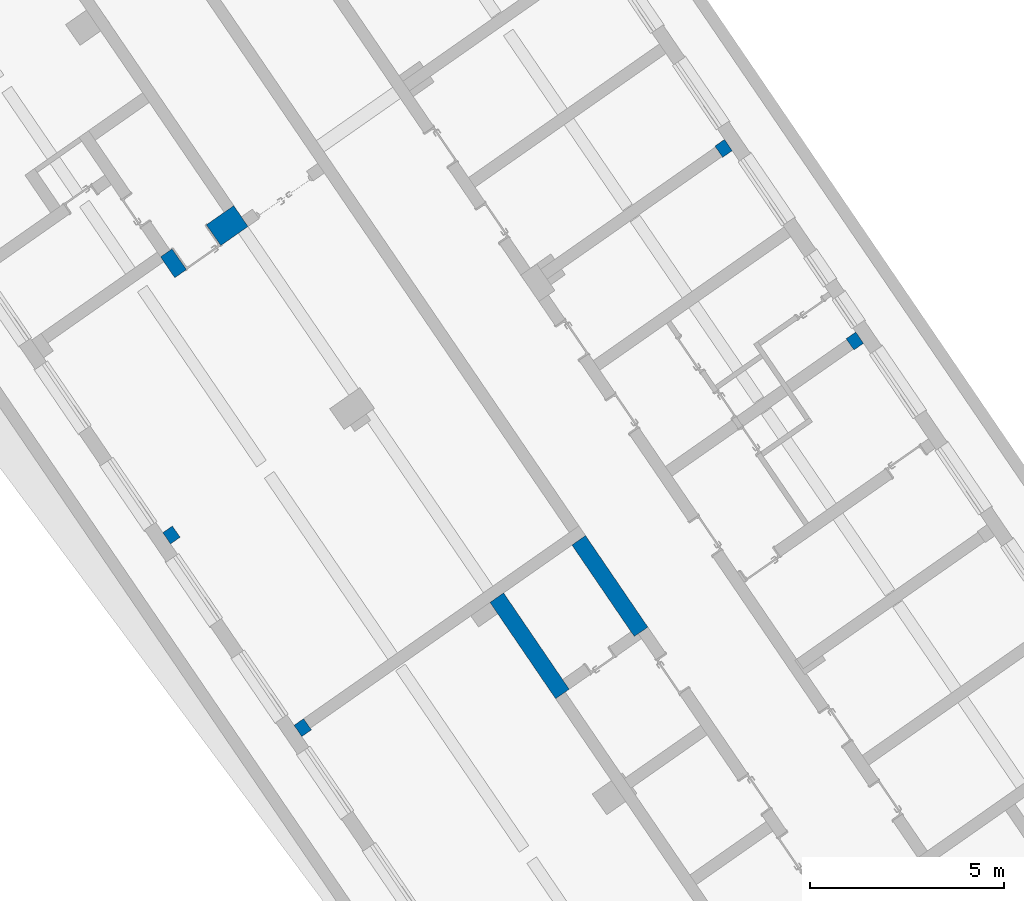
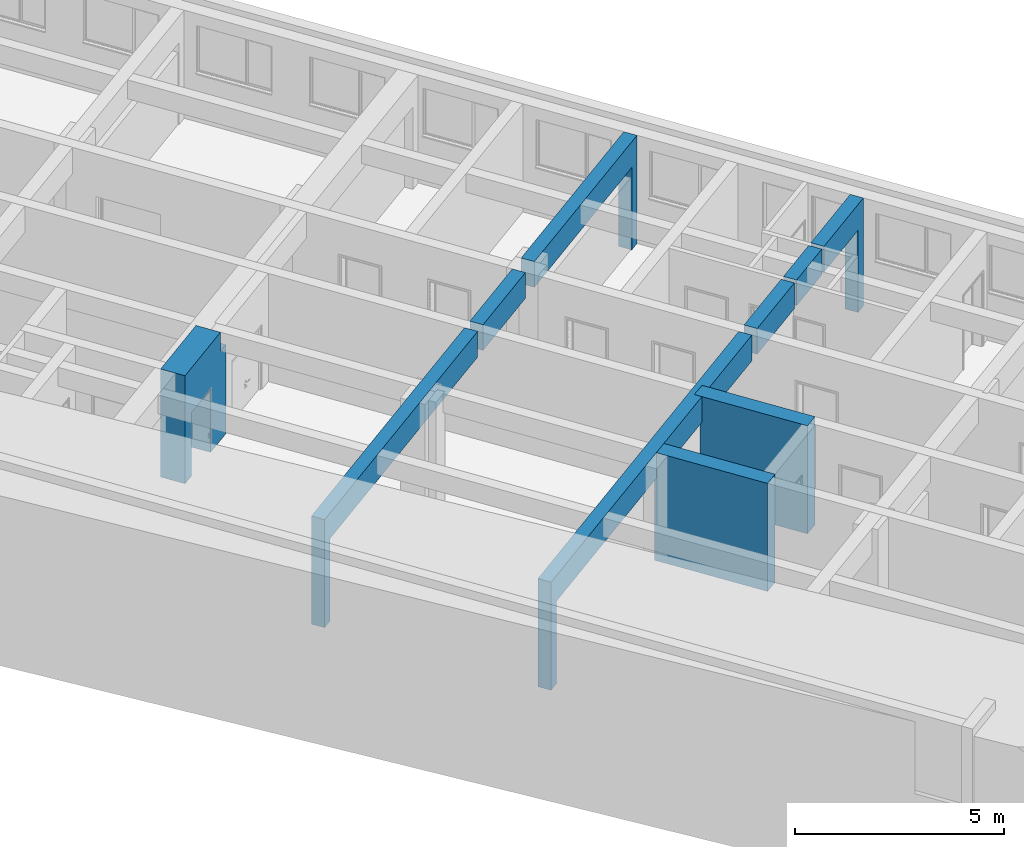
# One storey, part 102 of 112: 5 walls, 1 opening.
"""IFC2X3 building model written with IfcOpenShell, lengths in millimetres."""

from ifc_helpers import new_model, entity, si_unit, converted_unit, derived_unit, direction, frame, frame_2d, origin, place, context, subcontext, project, spatial, rectangle, extrude, faceted_brep, material, layer, layer_set, type_object, element, save


model = new_model("IFC2X3")

# Units and contexts
model_context = context("Model", 3, precision=0.01, world=origin(), true_north=direction((6.123031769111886e-17, 1.0)))
body_context = subcontext(model_context, "Body", "Model", "MODEL_VIEW")
ifc_project = project(units=[si_unit("LENGTHUNIT", "METRE", prefix="MILLI"), si_unit("AREAUNIT", "SQUARE_METRE"), si_unit("VOLUMEUNIT", "CUBIC_METRE"), converted_unit("PLANEANGLEUNIT", "DEGREE", entity("IfcRatioMeasure", 0.017453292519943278), si_unit("PLANEANGLEUNIT", "RADIAN"), dimensions=[0, 0, 0, 0, 0, 0, 0]), si_unit("MASSUNIT", "GRAM", prefix="KILO"), derived_unit("MASSDENSITYUNIT", [(si_unit("MASSUNIT", "GRAM", prefix="KILO"), 1), (si_unit("LENGTHUNIT", "METRE"), -3)]), derived_unit("MOMENTOFINERTIAUNIT", [(si_unit("LENGTHUNIT", "METRE"), 4)]), si_unit("TIMEUNIT", "SECOND"), si_unit("FREQUENCYUNIT", "HERTZ"), si_unit("THERMODYNAMICTEMPERATUREUNIT", "DEGREE_CELSIUS"), derived_unit("THERMALTRANSMITTANCEUNIT", [(si_unit("MASSUNIT", "GRAM", prefix="KILO"), 1), (si_unit("THERMODYNAMICTEMPERATUREUNIT", "KELVIN"), -1), (si_unit("TIMEUNIT", "SECOND"), -3)]), derived_unit("THERMALCONDUCTANCEUNIT", [(si_unit("MASSUNIT", "GRAM", prefix="KILO"), 1), (si_unit("LENGTHUNIT", "METRE"), 1), (si_unit("THERMODYNAMICTEMPERATUREUNIT", "KELVIN"), -1), (si_unit("TIMEUNIT", "SECOND"), -3)]), derived_unit("VOLUMETRICFLOWRATEUNIT", [(si_unit("LENGTHUNIT", "METRE"), 3), (si_unit("TIMEUNIT", "SECOND"), -1)]), derived_unit("MASSFLOWRATEUNIT", [(si_unit("MASSUNIT", "GRAM", prefix="KILO"), 1), (si_unit("TIMEUNIT", "SECOND"), -1)]), derived_unit("ROTATIONALFREQUENCYUNIT", [(si_unit("TIMEUNIT", "SECOND"), -1)]), si_unit("ELECTRICCURRENTUNIT", "AMPERE"), si_unit("ELECTRICVOLTAGEUNIT", "VOLT"), si_unit("POWERUNIT", "WATT"), converted_unit("FORCEUNIT", "KIP", entity("IfcRatioMeasure", 2.088543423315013e-05), si_unit("FORCEUNIT", "NEWTON"), dimensions=[1, 1, -2, 0, 0, 0, 0]), si_unit("ILLUMINANCEUNIT", "LUX"), si_unit("LUMINOUSFLUXUNIT", "LUMEN"), si_unit("LUMINOUSINTENSITYUNIT", "CANDELA"), derived_unit("USERDEFINED", [(si_unit("MASSUNIT", "GRAM", prefix="KILO"), -1), (si_unit("LENGTHUNIT", "METRE"), -2), (si_unit("TIMEUNIT", "SECOND"), 3), (si_unit("LUMINOUSFLUXUNIT", "LUMEN"), 1)]), derived_unit("USERDEFINED", [(si_unit("MASSUNIT", "GRAM", prefix="KILO"), 1), (si_unit("LENGTHUNIT", "METRE"), 3), (si_unit("TIMEUNIT", "SECOND"), -3), (si_unit("ELECTRICCURRENTUNIT", "AMPERE"), -2)]), derived_unit("USERDEFINED", [(si_unit("LENGTHUNIT", "METRE"), 2), (si_unit("TIMEUNIT", "SECOND"), -2)]), derived_unit("SOUNDPOWERUNIT", [(si_unit("MASSUNIT", "GRAM", prefix="KILO"), 1), (si_unit("LENGTHUNIT", "METRE"), 2), (si_unit("TIMEUNIT", "SECOND"), -3)]), derived_unit("SOUNDPRESSUREUNIT", [(si_unit("MASSUNIT", "GRAM", prefix="KILO"), 1), (si_unit("LENGTHUNIT", "METRE"), -1), (si_unit("TIMEUNIT", "SECOND"), -2)]), derived_unit("LINEARVELOCITYUNIT", [(si_unit("LENGTHUNIT", "METRE"), 1), (si_unit("TIMEUNIT", "SECOND"), -1)]), si_unit("PRESSUREUNIT", "PASCAL"), derived_unit("USERDEFINED", [(si_unit("LENGTHUNIT", "METRE"), -2), (si_unit("MASSUNIT", "GRAM", prefix="KILO"), 1), (si_unit("TIMEUNIT", "SECOND"), -2)]), derived_unit("LINEARFORCEUNIT", [(si_unit("MASSUNIT", "GRAM", prefix="KILO"), 1), (si_unit("LENGTHUNIT", "METRE"), 1), (si_unit("TIMEUNIT", "SECOND"), -2), (si_unit("LENGTHUNIT", "METRE"), -1)]), derived_unit("PLANARFORCEUNIT", [(si_unit("MASSUNIT", "GRAM", prefix="KILO"), 1), (si_unit("LENGTHUNIT", "METRE"), 1), (si_unit("TIMEUNIT", "SECOND"), -2), (si_unit("LENGTHUNIT", "METRE"), -2)]), derived_unit("SPECIFICHEATCAPACITYUNIT", [(si_unit("LENGTHUNIT", "METRE"), 2), (si_unit("TIMEUNIT", "SECOND"), -2), (si_unit("THERMODYNAMICTEMPERATUREUNIT", "KELVIN"), -1)]), derived_unit("VAPORPERMEABILITYUNIT", [(si_unit("TIMEUNIT", "SECOND"), 1), (si_unit("LENGTHUNIT", "METRE"), -1)]), derived_unit("DYNAMICVISCOSITYUNIT", [(si_unit("MASSUNIT", "GRAM", prefix="KILO"), 1), (si_unit("LENGTHUNIT", "METRE"), -1), (si_unit("TIMEUNIT", "SECOND"), -1)]), derived_unit("THERMALEXPANSIONCOEFFICIENTUNIT", [(si_unit("THERMODYNAMICTEMPERATUREUNIT", "KELVIN"), -1)])], contexts=[model_context])

# Site, building, storey
site_placement = place(None, frame((0.0, 0.0, 0.0), z_axis=(0.0, 0.0, 1.0), x_axis=(0.8191520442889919, 0.5735764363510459, 0.0)))
site = spatial("IfcSite", under=ifc_project, at=site_placement, Name="Default", CompositionType="ELEMENT")
building_placement = place(site_placement, origin())
building = spatial("IfcBuilding", under=site, at=building_placement, CompositionType="ELEMENT")
storey_placement = place(building_placement, frame((0.0, 0.0, -3600.0)))
storey = spatial("IfcBuildingStorey", under=building, at=storey_placement, Name="0.UG -3.60", CompositionType="ELEMENT", Elevation=-3600.0000000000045)

# Walls
ifc_material = material(Name="Analytical Wall Surface_CJC")
ifc_layer_1 = layer(ifc_material, 350.0)
ifc_layer_set_1 = layer_set([ifc_layer_1], Name="Basic Wall:Wand_Innen_35")
wall_type_1 = type_object("IfcWallType", Name="Basic Wall:Wand_Innen_35", PredefinedType="STANDARD", material=ifc_layer_set_1)
wall_1_placement = place(storey_placement, frame((-205556.72481544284, 79396.35891435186, 300.0), z_axis=(0.0, 0.0, 1.0), x_axis=(-1.0, 0.0, 0.0)))
element("IfcWall", 1, at=wall_1_placement, inside=storey, type_object=wall_type_1, Name="Basic Wall:Wand_Innen_35", ObjectType="Basic Wall:Wand_Innen_35", context=body_context, shape_type="Brep", body=[
    faceted_brep([(0.0, -175.0, 0.0), (302.2107906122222, -175.0, 0.0), (302.2107906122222, -175.0, 2400.0), (5352.704468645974, -175.0, 2400.0), (5800.456240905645, -175.0, 2400.0), (5800.456240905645, -175.0, 3150.0), (5352.704468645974, -175.0, 3150.0), (3200.2455601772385, -175.0, 3150.0), (2900.221250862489, -175.0, 3150.0), (0.0, -175.0, 3150.0), (4.455731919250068, 175.0, 0.0), (302.2107906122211, 175.0, 0.0), (302.21079061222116, 150.0, 0.0), (302.2107906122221, -150.0, 0.0), (302.2107906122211, 175.0, 2400.0), (5352.704468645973, 175.0, 2400.0), (5804.911957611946, 175.0, 2400.0), (4.455731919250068, 175.0, 3150.0), (5804.911957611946, 175.0, 3150.0), (5352.704468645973, 175.0, 3150.0), (3204.7012768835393, 175.0, 3150.0), (2904.6769675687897, 175.0, 3150.0)], [[[0, 1, 2, 3, 4, 5, 6, 7, 8, 9]], [[1, 0, 10, 11, 12, 13]], [[2, 1, 13, 12, 11, 14]], [[2, 14, 15, 16, 4, 3]], [[0, 9, 17, 10]], [[5, 4, 16, 18]], [[17, 9, 8, 7, 6, 5, 18, 19, 20, 21]], [[11, 10, 17, 21, 20, 19, 18, 16, 15, 14]]]),
    faceted_brep([(17353.632162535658, 175.0, 0.0), (17353.632162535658, 175.0, 2400.0), (12302.668030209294, 175.0, 2400.0), (11352.668030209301, 175.0, 2400.0), (9005.171121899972, 175.0, 2400.0), (9005.171121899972, 175.0, 3150.0), (11352.668030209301, 175.0, 3150.0), (11405.365731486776, 175.0, 3150.0), (11705.39004080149, 175.0, 3150.0), (12302.668030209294, 175.0, 3150.0), (14405.608824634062, 175.0, 3150.0), (14705.633133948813, 175.0, 3150.0), (17655.822867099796, 175.0, 3150.0), (17655.822867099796, 175.0, 0.0), (17651.367150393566, -175.0, 3150.0), (9000.71540519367, -175.0, 3150.0), (11352.668030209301, -175.0, 3150.0), (11400.910014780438, -175.0, 3150.0), (11700.93432409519, -175.0, 3150.0), (12302.668030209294, -175.0, 3150.0), (14401.153107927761, -175.0, 3150.0), (14701.17741724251, -175.0, 3150.0), (17353.632162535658, -175.0, 0.0), (17353.632162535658, -175.0, 2400.0), (17651.367150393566, -175.0, 0.0), (9000.71540519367, -175.0, 2400.0), (12302.668030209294, -175.0, 2400.0), (11352.668030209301, -175.0, 2400.0)], [[[0, 1, 2, 3, 4, 5, 6, 7, 8, 9, 10, 11, 12, 13]], [[14, 12, 11, 10, 9, 8, 7, 6, 5, 15, 16, 17, 18, 19, 20, 21]], [[22, 23, 1, 0]], [[24, 22, 0, 13]], [[14, 24, 13, 12]], [[25, 15, 5, 4]], [[1, 23, 26, 27, 25, 4, 3, 2]], [[23, 22, 24, 14, 21, 20, 19, 18, 17, 16, 15, 25, 27, 26]]]),
    faceted_brep([(8700.691095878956, -175.0, 3150.0), (8700.691095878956, -175.0, 2400.0), (8705.146812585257, 175.0, 2400.0), (8705.146812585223, 175.0, 3150.0), (6300.496756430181, -175.0, 2400.0), (6300.496756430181, -175.0, 3150.0), (6304.952473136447, 175.0, 3150.0), (6304.952473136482, 175.0, 2400.0), (6302.704468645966, -1.5824947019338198, 2400.0), (6302.704468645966, -175.0, 2400.0), (6302.704468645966, -175.0, 3150.0)], [[[0, 1, 2, 3]], [[4, 5, 6, 7, 8]], [[2, 1, 9, 4, 8, 7]], [[0, 3, 6, 5, 10]], [[3, 2, 7, 6]], [[1, 0, 10, 5, 4, 9]]]),
])
wall_2_placement = place(storey_placement, frame((-205633.10879120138, 73396.35891435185, 300.0), z_axis=(0.0, 0.0, 1.0), x_axis=(-1.0, 0.0, 0.0)))
element("IfcWall", 2, at=wall_2_placement, inside=storey, type_object=wall_type_1, Name="Basic Wall:Wand_Innen_35", ObjectType="Basic Wall:Wand_Innen_35", context=body_context, shape_type="Brep", body=[
    faceted_brep([(0.0, -175.0, 0.0), (302.2105298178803, -175.0, 0.0), (302.2105298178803, -175.0, 2400.0), (2225.166294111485, -175.0, 2400.0), (2225.1662941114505, -175.0, 3150.0), (0.0, -175.0, 3150.0), (4.4557319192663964, 175.0, 0.0), (302.2105298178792, 175.0, 0.0), (302.2105298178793, 150.0, 0.0), (302.21052981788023, -150.0, 0.0), (302.2105298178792, 175.0, 2400.0), (302.2105298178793, 150.0, 2400.0), (302.21052981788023, -150.0, 2400.0), (2229.622010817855, 175.0, 2400.0), (4.4557319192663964, 175.0, 3150.0), (2229.622010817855, 175.0, 3150.0)], [[[0, 1, 2, 3, 4, 5]], [[1, 0, 6, 7, 8, 9]], [[2, 1, 9, 8, 7, 10, 11, 12]], [[2, 12, 11, 10, 13, 3]], [[0, 5, 14, 6]], [[4, 3, 13, 15]], [[14, 5, 4, 15]], [[7, 6, 14, 15, 13, 10]]]),
    faceted_brep([(17353.631901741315, 175.0, 0.0), (17353.631901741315, 175.0, 2400.0), (12309.25758438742, 175.0, 2400.0), (11705.389780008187, 175.0, 2400.0), (11280.355341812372, 175.0, 2400.0), (6304.952212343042, 175.0, 2400.0), (6304.952212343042, 175.0, 3150.0), (11280.355341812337, 175.0, 3150.0), (11705.389780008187, 175.0, 3150.0), (12309.25758438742, 175.0, 3150.0), (14405.608563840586, 175.0, 3150.0), (14705.6328731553, 175.0, 3150.0), (17655.82260630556, 175.0, 3150.0), (17655.82260630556, 175.0, 0.0), (17651.36688959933, -175.0, 3150.0), (6300.49649563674, -175.0, 3150.0), (11400.909753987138, -175.0, 3150.0), (11700.934063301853, -175.0, 3150.0), (14401.152847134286, -175.0, 3150.0), (14701.177156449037, -175.0, 3150.0), (17353.631901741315, -175.0, 0.0), (17353.631901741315, -175.0, 2400.0), (17353.631901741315, 125.0, 2400.0), (17353.631901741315, 125.0, 0.0), (17651.36688959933, -175.0, 0.0), (6300.496495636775, -175.0, 2400.0), (8700.691021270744, -175.0, 2400.0)], [[[0, 1, 2, 3, 4, 5, 6, 7, 8, 9, 10, 11, 12, 13]], [[14, 12, 11, 10, 9, 8, 7, 6, 15, 16, 17, 18, 19]], [[20, 21, 22, 1, 0, 23]], [[24, 20, 23, 0, 13]], [[14, 24, 13, 12]], [[25, 15, 6, 5]], [[1, 22, 21, 26, 25, 5, 4, 3, 2]], [[21, 20, 24, 14, 19, 18, 17, 16, 15, 25, 26]]]),
    faceted_brep([(6000.472186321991, -175.0, 3150.0), (6000.472186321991, -175.0, 2400.0), (6004.927903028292, 175.0, 2400.0), (6004.927903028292, 175.0, 3150.0), (3900.302021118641, -175.0, 2400.0), (3900.302021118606, -175.0, 3150.0), (3904.7577378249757, 175.0, 3150.0), (3904.757737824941, 175.0, 2400.0)], [[[0, 1, 2, 3]], [[4, 5, 6, 7]], [[2, 1, 4, 7]], [[0, 3, 6, 5]], [[3, 2, 7, 6]], [[1, 0, 5, 4]]]),
    faceted_brep([(3770.2914870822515, -175.0, 3150.0), (3770.291487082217, -175.0, 2400.0), (3774.747203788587, 175.0, 2400.0), (3774.747203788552, 175.0, 3150.0), (2350.1764229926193, -175.0, 2400.0), (2350.176422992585, -175.0, 3150.0), (2354.6321396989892, 175.0, 3150.0), (2354.6321396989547, 175.0, 2400.0), (3204.7010160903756, 175.0, 3150.0), (2904.676706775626, 175.0, 3150.0), (2900.220990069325, -175.0, 3150.0), (3200.2452993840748, -175.0, 3150.0)], [[[0, 1, 2, 3]], [[4, 5, 6, 7]], [[2, 1, 4, 7]], [[0, 3, 8, 9, 6, 5, 10, 11]], [[3, 2, 7, 6, 9, 8]], [[1, 0, 11, 10, 5, 4]]]),
])

# Wall, opening
ifc_layer_2 = layer(ifc_material, 650.0)
ifc_layer_set_2 = layer_set([ifc_layer_2], Name="Basic Wall:Wand_Innen_65")
wall_type_2 = type_object("IfcWallType", Name="Basic Wall:Wand_Innen_65", PredefinedType="STANDARD", material=ifc_layer_set_2)
wall_3_placement = place(storey_placement, frame((-219191.62198199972, 85096.35891435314, 300.0)))
wall_3 = element("IfcWall", 3, at=wall_3_placement, inside=storey, type_object=wall_type_2, Name="Basic Wall:Wand_Innen_65", ObjectType="Basic Wall:Wand_Innen_65", context=body_context, shape_type="Brep", body=[
    faceted_brep([(2000.162062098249, -325.0, 3150.0), (0.0, -325.0, 3150.0), (0.0, -325.0, 0.0), (366.4482562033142, -325.0, 0.0), (366.4482562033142, -325.0, 1850.0), (1446.448256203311, -325.0, 1850.0), (1446.448256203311, -325.0, 0.0), (2300.1863714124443, -325.0, 0.0), (2300.1863714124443, -325.0, 2600.0), (2000.162062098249, -325.0, 2600.0), (8.274902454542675, 325.0, 3150.0), (308.29921176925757, 325.0, 3150.0), (2008.4369645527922, 325.0, 3150.0), (2008.4369645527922, 325.0, 2600.0), (2154.311667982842, 325.0, 2600.0), (2308.461273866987, 325.0, 2600.0), (2308.461273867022, 325.0, 0.0), (2154.311667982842, 325.0, 0.0), (2008.4369645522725, 325.0, 0.0), (1446.448256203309, 325.0, 0.0), (1446.448256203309, 325.0, 1850.0), (366.44825620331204, 325.0, 1850.0), (366.44825620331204, 325.0, 0.0), (308.29921176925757, 325.0, 0.0), (8.274902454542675, 325.0, 0.0), (6.365309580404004, 175.0, 0.0), (2003.3447168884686, -75.0, 3150.0), (2303.369026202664, -75.0, 2600.0), (2003.3447168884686, -75.0, 2600.0)], [[[0, 1, 2, 3, 4, 5, 6, 7, 8, 9]], [[10, 11, 12, 13, 14, 15, 16, 17, 18, 19, 20, 21, 22, 23, 24]], [[2, 25, 24, 23, 22, 3]], [[1, 0, 26, 12, 11, 10]], [[9, 8, 27, 15, 14, 13, 28]], [[7, 16, 15, 27, 8]], [[12, 26, 0, 9, 28, 13]], [[1, 10, 24, 25, 2]], [[21, 4, 3, 22]], [[4, 21, 20, 5]], [[5, 20, 19, 6]], [[16, 7, 6, 19, 18, 17]]]),
])
opening_placement = place(wall_3_placement, frame((1446.4482562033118, 325.0, -300.0)))
element("IfcOpeningElement", 4, at=opening_placement, cuts=wall_3, Name="Doors_IntSgl:100x210:1", ObjectType="Opening", context=body_context, shape_type="SweptSolid", body=[
    extrude(rectangle(XDim=2150.000000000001, YDim=1079.9999999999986, at=frame_2d((1075.0000000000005, 539.9999999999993), x_axis=(1.0, 0.0))), frame((0.0, 0.0, 0.0), z_axis=(0.0, -1.0, 0.0), x_axis=(0.0, 0.0, 1.0)), (0.0, 0.0, 1.0), 650.0),
])

# Walls
ifc_layer_3 = layer(ifc_material, 425.0)
ifc_layer_set_3 = layer_set([ifc_layer_3], Name="Basic Wall:Wand_Innen_42.5")
wall_type_3 = type_object("IfcWallType", Name="Basic Wall:Wand_Innen_42.5", PredefinedType="STANDARD", material=ifc_layer_set_3)
wall_4_placement = place(storey_placement, frame((-217163.57111543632, 70268.6538769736, 300.0), z_axis=(0.0, 0.0, 1.0), x_axis=(0.012729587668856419, 0.999918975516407, 0.0)))
element("IfcWall", 5, at=wall_4_placement, inside=storey, type_object=wall_type_3, Name="Basic Wall:Wand_Innen_42.5", ObjectType="Basic Wall:Wand_Innen_42.5", context=body_context, shape_type="Brep", body=[
    faceted_brep([(5.410513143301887, -212.49999999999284, 0.0), (305.43482245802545, -212.4999999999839, 0.0), (3005.653606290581, -212.49999999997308, 0.0), (3005.653606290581, -212.49999999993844, 2400.0), (2955.649554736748, -212.4999999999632, 2400.0), (2955.649554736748, -212.4999999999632, 3150.0), (305.43482245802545, -212.4999999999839, 3150.0), (5.410513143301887, -212.49999999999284, 3150.0), (0.0, 212.49999999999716, 0.0), (0.0, 212.49999999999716, 3150.0), (2650.2147322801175, 212.50000000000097, 3150.0), (2950.2390415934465, 212.5000000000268, 3150.0), (2950.2390415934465, 212.5000000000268, 2400.0), (3000.2430931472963, 212.50000000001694, 2400.0), (3000.2430931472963, 212.50000000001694, 0.0), (2650.2147322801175, 212.50000000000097, 0.0)], [[[0, 1, 2, 3, 4, 5, 6, 7]], [[8, 9, 10, 11, 12, 13, 14, 15]], [[2, 1, 0, 8, 15, 14]], [[7, 6, 5, 11, 10, 9]], [[0, 7, 9, 8]], [[12, 4, 3, 13]], [[3, 2, 14, 13]], [[4, 12, 11, 5]]]),
])
wall_5_placement = place(storey_placement, frame((-214586.41843300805, 70421.35891435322, 300.0), z_axis=(0.0, 0.0, 1.0), x_axis=(0.012729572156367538, 0.9999189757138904, 0.0)))
element("IfcWall", 6, at=wall_5_placement, inside=storey, type_object=wall_type_3, Name="Basic Wall:Wand_Innen_42.5", ObjectType="Basic Wall:Wand_Innen_42.5", context=body_context, shape_type="Brep", body=[
    faceted_brep([(0.0, -212.49999999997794, 0.0), (2852.9361912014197, -212.4999999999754, 0.0), (2852.9361912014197, -212.50000000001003, 2400.0), (3000.2430925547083, -212.49999999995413, 2400.0), (3000.2430925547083, -212.49999999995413, 3150.0), (0.0, -212.49999999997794, 3150.0), (0.0, 212.500000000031, 0.0), (0.0, 212.500000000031, 3150.0), (147.30690135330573, 212.49999999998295, 3150.0), (3000.2430925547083, 212.50000000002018, 3150.0), (3000.2430925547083, 212.50000000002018, 2400.0), (2847.5256846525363, 212.4999999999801, 2400.0), (2847.5256846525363, 212.4999999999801, 0.0), (147.30690135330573, 212.49999999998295, 0.0)], [[[0, 1, 2, 3, 4, 5]], [[6, 7, 8, 9, 10, 11, 12, 13]], [[1, 0, 6, 13, 12]], [[5, 4, 9, 8, 7]], [[0, 5, 7, 6]], [[4, 3, 10, 9]], [[10, 3, 2, 11]], [[2, 1, 12, 11]]]),
])

save(model, "model.ifc")
